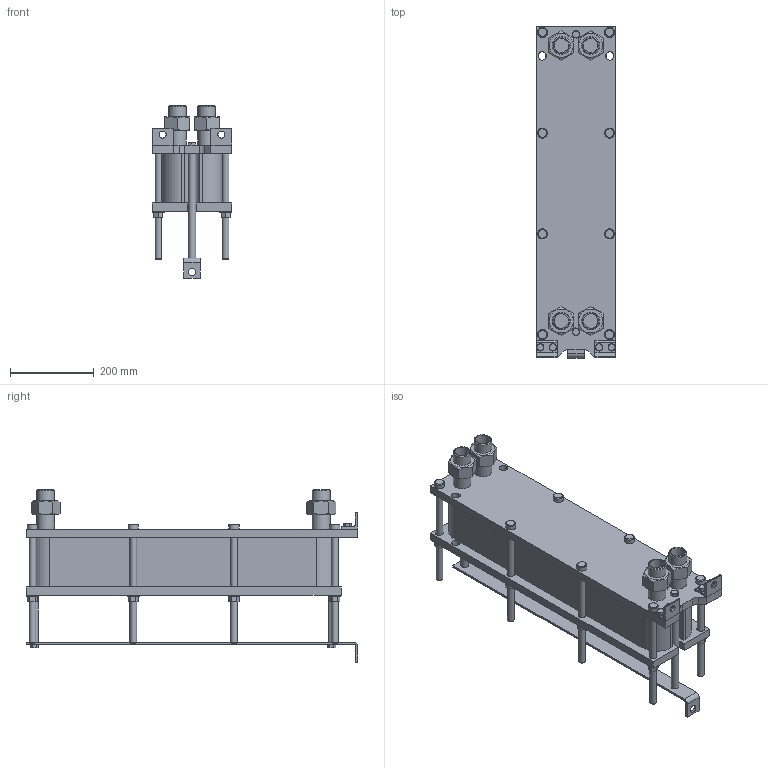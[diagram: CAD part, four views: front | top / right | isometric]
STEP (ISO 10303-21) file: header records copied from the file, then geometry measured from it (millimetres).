
FILE_DESCRIPTION(/* description */ (''),/* implementation_level */ '2;1');
FILE_NAME(/* name */ 'C:\Users\zhuro\Desktop\ENCO\TO\ЭН-008\ЭН-0,5-008-38-1.stp',/* time_stamp */ '2022-06-06T10:48:03+03:00',/* author */ ('zhuro'),/* organization */ (''),/* preprocessor_version */ 'ST-DEVELOPER v18.1',/* originating_system */ 'Autodesk Inventor 2022',/* authorisation */ '');
FILE_SCHEMA (('AUTOMOTIVE_DESIGN { 1 0 10303 214 3 1 1 }'));
Length unit declared in the file: millimetre
Products named in the file (1): ЭН-0,5-008-38-1
Bounding box: 190 x 790 x 411.4 mm (x, y, z)
Volume: 18717727.9 mm3; surface area: 1497077.3 mm2
Topology: 40 solids, 40 shells, 428 faces, 924 edges, 606 vertices
Faces by surface type: plane 273, cylinder 109, cone 40, torus 6
Full cylindrical faces by diameter (mm): 12 x6, 14 x2, 16 x20, 17 x8, 18 x19, 20 x5, 24 x8, 28 x8, 34.3 x8, 42.3 x8
Entity records: 15843 total; most frequent: CARTESIAN_POINT 5991, DIRECTION 1984, ORIENTED_EDGE 1848, EDGE_CURVE 924, AXIS2_PLACEMENT_3D 715, VERTEX_POINT 606, LINE 554, VECTOR 554
